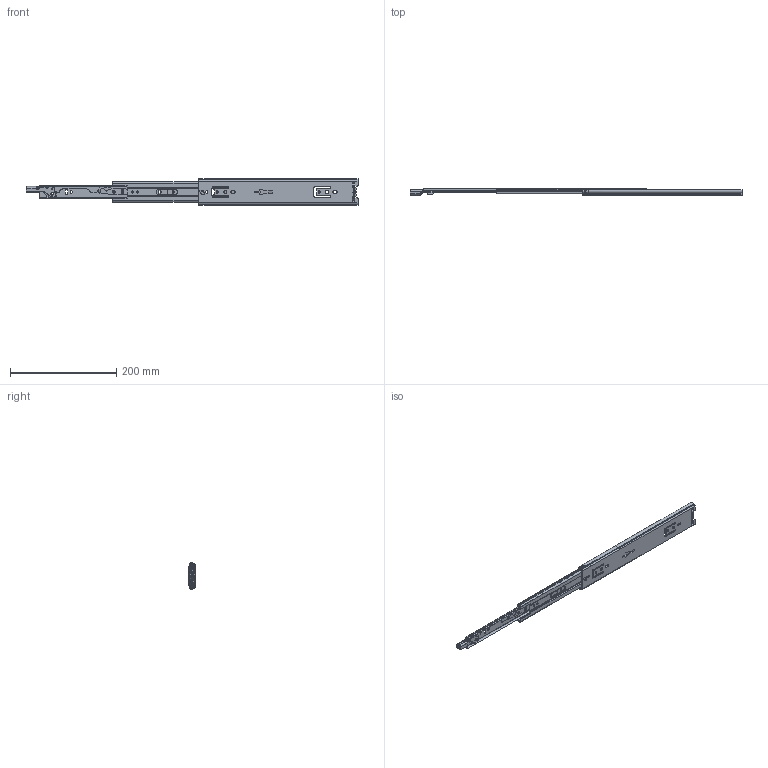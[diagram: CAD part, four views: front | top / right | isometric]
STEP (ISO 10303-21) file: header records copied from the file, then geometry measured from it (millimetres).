
FILE_DESCRIPTION((''),'2;1');
FILE_NAME('KP-50-3S-12-YOU_ASM','2023-04-28T',('jishu015'),(''),'PRO/ENGINEER BY PARAMETRIC TECHNOLOGY CORPORATION, 2010280','PRO/ENGINEER BY PARAMETRIC TECHNOLOGY CORPORATION, 2010280','');
FILE_SCHEMA(('CONFIG_CONTROL_DESIGN'));
Length unit declared in the file: millimetre
Products named in the file (19): KP-50-01WAIKE18___________; KP-50-01ZHONGGIU18___________; ZHONGGUIPEIJIAN________; 50BAIKOU_____; KP-53-01ZHONGGUI-18____________ASM; KP-50-01ZHUJIA-16GE___________; 4-76GANZHU___________; KP-50-01ZHUJIA-16GE____________ASM; KP-50-01NEIGUI18___________; YH1050BANJI________; PIAN________; JIAO________; DAOPIAN_____; ZOU-1_____; KP53-0NEIGUI____________ASM; 50ZHUTIAO___________; 50ZHUTIAO____________ASM; CHANGGUI1045WEIJIAO2________; KP-50-3S-12-YOU_ASM
Assembly tree (42 placements, depth 3):
  KP-50-3S-12-YOU_ASM
    KP-50-01WAIKE18___________
    KP-53-01ZHONGGUI-18____________ASM
      KP-50-01ZHONGGIU18___________
      ZHONGGUIPEIJIAN________
      50BAIKOU_____
    KP-50-01ZHUJIA-16GE____________ASM
      KP-50-01ZHUJIA-16GE___________
      4-76GANZHU___________  x20
    KP53-0NEIGUI____________ASM
      KP-50-01NEIGUI18___________
      YH1050BANJI________
      PIAN________
      JIAO________
      DAOPIAN_____
      ZOU-1_____
    50ZHUTIAO____________ASM  x2
      50ZHUTIAO___________
      4-76GANZHU___________
    CHANGGUI1045WEIJIAO2________
Bounding box: 625.3 x 13 x 50 mm (x, y, z)
Volume: 89763.2 mm3; surface area: 118467.6 mm2
Topology: 42 solids, 43 shells, 1289 faces, 3684 edges, 2304 vertices
Faces by surface type: plane 558, cylinder 542, bspline 69, sphere 58, torus 25, extrusion 23, cone 14
Entity records: 43524 total; most frequent: CARTESIAN_POINT 11106, ORIENTED_EDGE 6840, DIRECTION 6693, EDGE_CURVE 3422, AXIS2_PLACEMENT_3D 2286, VERTEX_POINT 2186, VECTOR 2121, LINE 2098
